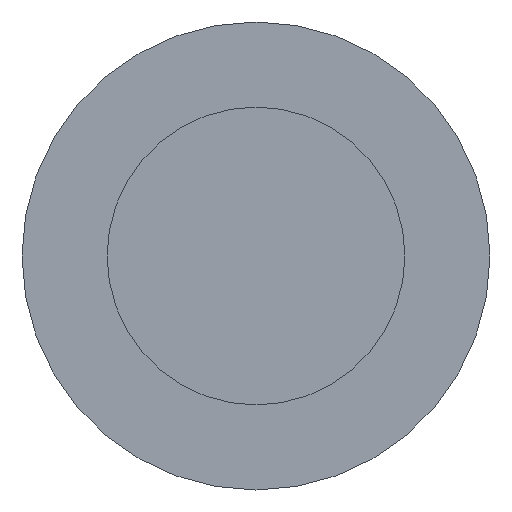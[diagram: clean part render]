
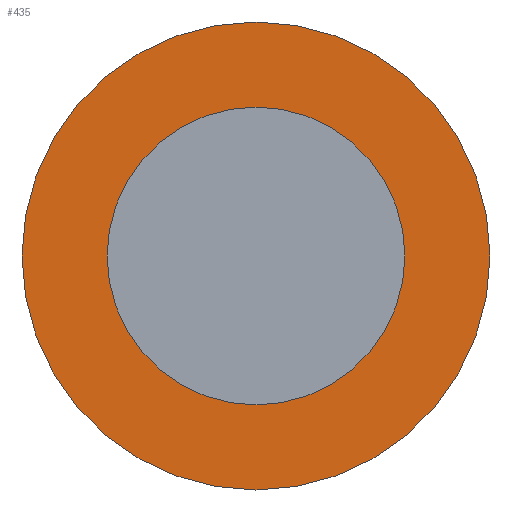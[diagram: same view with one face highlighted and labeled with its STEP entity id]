
A CAD part, front view. The second image highlights one B-rep face of the part: STEP entity #435.
In plain terms, the highlighted planar face has unit normal (0, -1, 0).
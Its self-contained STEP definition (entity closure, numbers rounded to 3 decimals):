
#2 = AXIS2_PLACEMENT_3D ( 'NONE', #209, #85, #244 ) ;
#10 = CARTESIAN_POINT ( 'NONE',  ( 10.25, -27.5, 173.01 ) ) ;
#46 = DIRECTION ( 'NONE',  ( 1., 0., 0. ) ) ;
#55 = EDGE_CURVE ( 'NONE', #341, #189, #402, .T. ) ;
#85 = DIRECTION ( 'NONE',  ( 0., 1., 0. ) ) ;
#93 = CARTESIAN_POINT ( 'NONE',  ( 12., -27.5, 173.01 ) ) ;
#136 = AXIS2_PLACEMENT_3D ( 'NONE', #93, #485, #246 ) ;
#164 = VERTEX_POINT ( 'NONE', #407 ) ;
#170 = DIRECTION ( 'NONE',  ( 1., 0., 0. ) ) ;
#178 = CIRCLE ( 'NONE', #455, 1.75 ) ;
#182 = AXIS2_PLACEMENT_3D ( 'NONE', #479, #475, #46 ) ;
#189 = VERTEX_POINT ( 'NONE', #10 ) ;
#194 = CARTESIAN_POINT ( 'NONE',  ( 13.75, -27.5, 173.01 ) ) ;
#209 = CARTESIAN_POINT ( 'NONE',  ( 12., -27.5, 173.01 ) ) ;
#226 = ORIENTED_EDGE ( 'NONE', *, *, #388, .T. ) ;
#233 = DIRECTION ( 'NONE',  ( 1., 0., 0. ) ) ;
#239 = EDGE_LOOP ( 'NONE', ( #267, #226 ) ) ;
#244 = DIRECTION ( 'NONE',  ( 1., 0., 0. ) ) ;
#246 = DIRECTION ( 'NONE',  ( 1., 0., 0. ) ) ;
#255 = EDGE_CURVE ( 'NONE', #164, #260, #370, .T. ) ;
#260 = VERTEX_POINT ( 'NONE', #427 ) ;
#267 = ORIENTED_EDGE ( 'NONE', *, *, #55, .T. ) ;
#299 = CARTESIAN_POINT ( 'NONE',  ( 12., -27.5, 173.01 ) ) ;
#316 = PLANE ( 'NONE',  #182 ) ;
#323 = FACE_BOUND ( 'NONE', #239, .T. ) ;
#325 = EDGE_LOOP ( 'NONE', ( #401, #358 ) ) ;
#341 = VERTEX_POINT ( 'NONE', #194 ) ;
#346 = DIRECTION ( 'NONE',  ( 0., 1., 0. ) ) ;
#358 = ORIENTED_EDGE ( 'NONE', *, *, #255, .F. ) ;
#370 = CIRCLE ( 'NONE', #466, 2.75 ) ;
#377 = CIRCLE ( 'NONE', #2, 2.75 ) ;
#388 = EDGE_CURVE ( 'NONE', #189, #341, #178, .T. ) ;
#394 = FACE_OUTER_BOUND ( 'NONE', #325, .T. ) ;
#401 = ORIENTED_EDGE ( 'NONE', *, *, #504, .F. ) ;
#402 = CIRCLE ( 'NONE', #136, 1.75 ) ;
#407 = CARTESIAN_POINT ( 'NONE',  ( 9.25, -27.5, 173.01 ) ) ;
#427 = CARTESIAN_POINT ( 'NONE',  ( 14.75, -27.5, 173.01 ) ) ;
#435 = ADVANCED_FACE ( 'NONE', ( #394, #323 ), #316, .F. ) ;
#443 = DIRECTION ( 'NONE',  ( 0., 1., 0. ) ) ;
#447 = CARTESIAN_POINT ( 'NONE',  ( 12., -27.5, 173.01 ) ) ;
#455 = AXIS2_PLACEMENT_3D ( 'NONE', #447, #443, #170 ) ;
#466 = AXIS2_PLACEMENT_3D ( 'NONE', #299, #346, #233 ) ;
#475 = DIRECTION ( 'NONE',  ( 0., 1., 0. ) ) ;
#479 = CARTESIAN_POINT ( 'NONE',  ( 10.25, -27.5, 173.01 ) ) ;
#485 = DIRECTION ( 'NONE',  ( 0., 1., 0. ) ) ;
#504 = EDGE_CURVE ( 'NONE', #260, #164, #377, .T. ) ;
